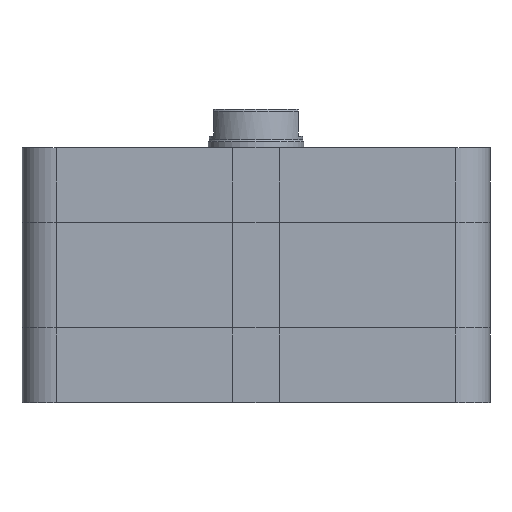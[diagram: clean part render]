
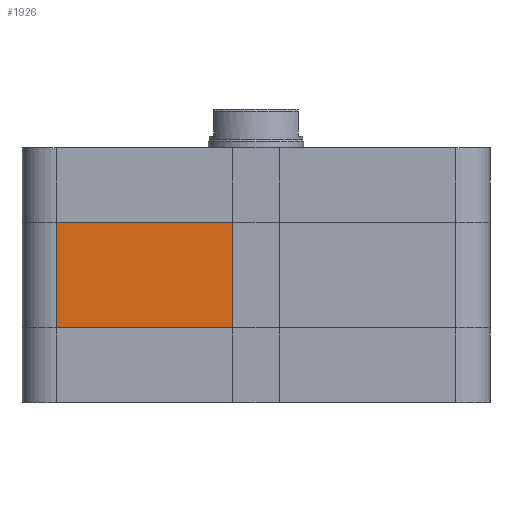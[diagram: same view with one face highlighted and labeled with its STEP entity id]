
A CAD part, front view. The second image highlights one B-rep face of the part: STEP entity #1926.
In plain terms, the highlighted planar face has unit normal (0, -1, 0).
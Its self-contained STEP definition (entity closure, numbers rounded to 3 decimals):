
#1837=CARTESIAN_POINT('',(-52.0,-61.,19.5));
#1838=VERTEX_POINT('',#1837);
#1846=CARTESIAN_POINT('',(-52.0,-61.,47.));
#1847=VERTEX_POINT('',#1846);
#1848=CARTESIAN_POINT('',(-52.0,-61.,19.5));
#1849=DIRECTION('',(0.0,0.0,1.0));
#1850=VECTOR('',#1849,27.5);
#1851=LINE('',#1848,#1850);
#1852=EDGE_CURVE('',#1838,#1847,#1851,.T.);
#1896=CARTESIAN_POINT('',(-6.,-61.,0.0));
#1897=DIRECTION('',(0.0,-1.0,0.0));
#1898=DIRECTION('',(0.0,0.0,-1.0));
#1899=AXIS2_PLACEMENT_3D('',#1896,#1897,#1898);
#1900=PLANE('',#1899);
#1901=CARTESIAN_POINT('',(-6.,-61.,19.5));
#1902=VERTEX_POINT('',#1901);
#1903=CARTESIAN_POINT('',(-52.0,-61.,19.5));
#1904=DIRECTION('',(1.0,0.0,0.0));
#1905=VECTOR('',#1904,46.0);
#1906=LINE('',#1903,#1905);
#1907=EDGE_CURVE('',#1838,#1902,#1906,.T.);
#1908=ORIENTED_EDGE('',*,*,#1907,.T.);
#1909=CARTESIAN_POINT('',(-6.,-61.,47.));
#1910=VERTEX_POINT('',#1909);
#1911=CARTESIAN_POINT('',(-6.,-61.,19.5));
#1912=DIRECTION('',(0.0,0.0,1.0));
#1913=VECTOR('',#1912,27.5);
#1914=LINE('',#1911,#1913);
#1915=EDGE_CURVE('',#1902,#1910,#1914,.T.);
#1916=ORIENTED_EDGE('',*,*,#1915,.T.);
#1917=CARTESIAN_POINT('',(-52.0,-61.,47.));
#1918=DIRECTION('',(1.0,0.0,0.0));
#1919=VECTOR('',#1918,46.0);
#1920=LINE('',#1917,#1919);
#1921=EDGE_CURVE('',#1847,#1910,#1920,.T.);
#1922=ORIENTED_EDGE('',*,*,#1921,.F.);
#1923=ORIENTED_EDGE('',*,*,#1852,.F.);
#1924=EDGE_LOOP('',(#1908,#1916,#1922,#1923));
#1925=FACE_OUTER_BOUND('',#1924,.T.);
#1926=ADVANCED_FACE('',(#1925),#1900,.T.);
